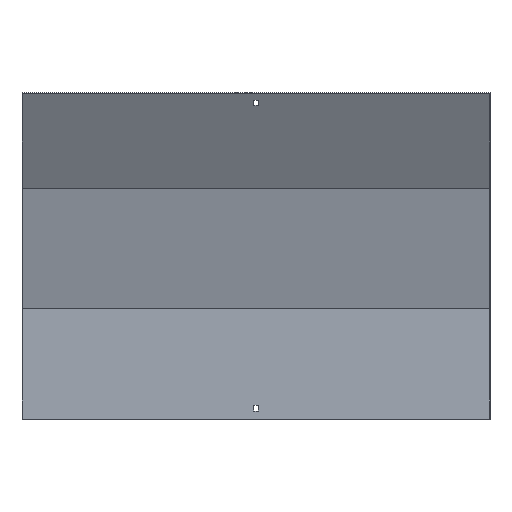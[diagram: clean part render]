
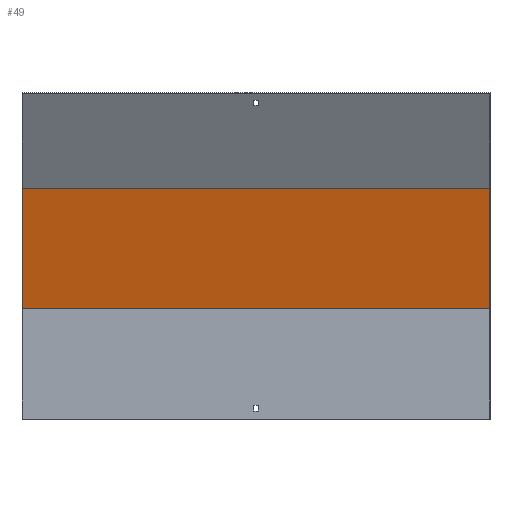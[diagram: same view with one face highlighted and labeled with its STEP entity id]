
A CAD part, front view. The second image highlights one B-rep face of the part: STEP entity #49.
In plain terms, the highlighted planar face has unit normal (0, -0.966, -0.259).
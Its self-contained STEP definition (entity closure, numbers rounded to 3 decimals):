
#9 = CARTESIAN_POINT ( 'NONE',  ( -350., -29.866, 345.939 ) ) ;
#26 = CARTESIAN_POINT ( 'NONE',  ( 351.5, -29.866, 345.939 ) ) ;
#33 = LINE ( 'NONE', #26, #561 ) ;
#38 = DIRECTION ( 'NONE',  ( -1., 0., 0. ) ) ;
#49 = ADVANCED_FACE ( 'NONE', ( #584 ), #714, .T. ) ;
#78 = EDGE_CURVE ( 'NONE', #775, #115, #262, .T. ) ;
#80 = CARTESIAN_POINT ( 'NONE',  ( 350., -29.866, 345.939 ) ) ;
#87 = EDGE_CURVE ( 'NONE', #775, #396, #100, .T. ) ;
#100 = LINE ( 'NONE', #638, #666 ) ;
#110 = CARTESIAN_POINT ( 'NONE',  ( 351.5, 17.87, 167.788 ) ) ;
#115 = VERTEX_POINT ( 'NONE', #80 ) ;
#123 = DIRECTION ( 'NONE',  ( 0., 0.259, -0.966 ) ) ;
#154 = VECTOR ( 'NONE', #196, 1000. ) ;
#196 = DIRECTION ( 'NONE',  ( 0., -0.259, 0.966 ) ) ;
#243 = DIRECTION ( 'NONE',  ( 0., -0.966, -0.259 ) ) ;
#253 = CARTESIAN_POINT ( 'NONE',  ( 350., 18.5, 165.436 ) ) ;
#262 = LINE ( 'NONE', #782, #154 ) ;
#289 = CARTESIAN_POINT ( 'NONE',  ( -350., 58.62, 15.707 ) ) ;
#347 = LINE ( 'NONE', #289, #667 ) ;
#385 = AXIS2_PLACEMENT_3D ( 'NONE', #110, #243, #123 ) ;
#396 = VERTEX_POINT ( 'NONE', #617 ) ;
#414 = EDGE_CURVE ( 'NONE', #396, #443, #347, .T. ) ;
#443 = VERTEX_POINT ( 'NONE', #9 ) ;
#474 = EDGE_LOOP ( 'NONE', ( #518, #528, #754, #512 ) ) ;
#484 = DIRECTION ( 'NONE',  ( 0., -0.259, 0.966 ) ) ;
#512 = ORIENTED_EDGE ( 'NONE', *, *, #553, .T. ) ;
#518 = ORIENTED_EDGE ( 'NONE', *, *, #414, .F. ) ;
#528 = ORIENTED_EDGE ( 'NONE', *, *, #87, .F. ) ;
#553 = EDGE_CURVE ( 'NONE', #115, #443, #33, .T. ) ;
#561 = VECTOR ( 'NONE', #634, 1000. ) ;
#584 = FACE_OUTER_BOUND ( 'NONE', #474, .T. ) ;
#617 = CARTESIAN_POINT ( 'NONE',  ( -350., 18.5, 165.436 ) ) ;
#634 = DIRECTION ( 'NONE',  ( -1., 0., 0. ) ) ;
#638 = CARTESIAN_POINT ( 'NONE',  ( 351.5, 18.5, 165.436 ) ) ;
#666 = VECTOR ( 'NONE', #38, 1000. ) ;
#667 = VECTOR ( 'NONE', #484, 1000. ) ;
#714 = PLANE ( 'NONE',  #385 ) ;
#754 = ORIENTED_EDGE ( 'NONE', *, *, #78, .T. ) ;
#775 = VERTEX_POINT ( 'NONE', #253 ) ;
#782 = CARTESIAN_POINT ( 'NONE',  ( 350., 58.62, 15.707 ) ) ;
